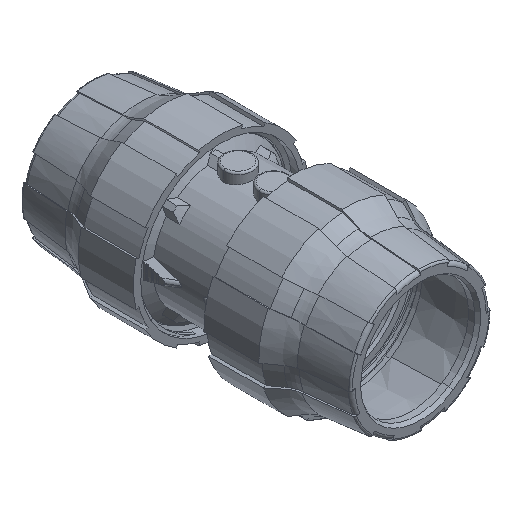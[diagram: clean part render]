
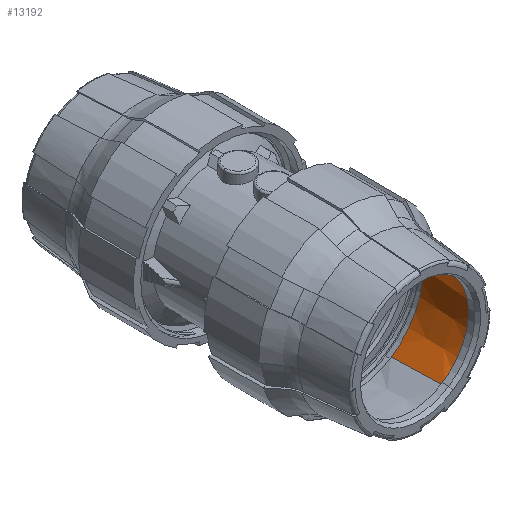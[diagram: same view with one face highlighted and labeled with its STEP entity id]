
A CAD part, isometric view. The second image highlights one B-rep face of the part: STEP entity #13192.
In plain terms, the highlighted conical face has half-angle 5.711 degrees and reference radius 35.457 mm.
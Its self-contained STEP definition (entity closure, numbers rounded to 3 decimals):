
#1772 = DIRECTION ( 'NONE',  ( 0., -1., 0. ) ) ;
#4125 = CARTESIAN_POINT ( 'NONE',  ( 0., -1.5, 38.602 ) ) ;
#4718 = AXIS2_PLACEMENT_3D ( 'NONE', #19025, #7998, #20873 ) ;
#5286 = VECTOR ( 'NONE', #22493, 1000. ) ;
#5398 = DIRECTION ( 'NONE',  ( 0., -1., 0. ) ) ;
#5467 = DIRECTION ( 'NONE',  ( 0., 0., -1. ) ) ;
#5844 = LINE ( 'NONE', #13364, #5286 ) ;
#6072 = CIRCLE ( 'NONE', #4718, 38.602 ) ;
#6181 = ORIENTED_EDGE ( 'NONE', *, *, #11480, .F. ) ;
#7423 = CARTESIAN_POINT ( 'NONE',  ( 0., 29.95, -35.457 ) ) ;
#7998 = DIRECTION ( 'NONE',  ( 0., -1., 0. ) ) ;
#8762 = ORIENTED_EDGE ( 'NONE', *, *, #22207, .T. ) ;
#10906 = VERTEX_POINT ( 'NONE', #18260 ) ;
#11480 = EDGE_CURVE ( 'NONE', #15521, #16288, #21147, .T. ) ;
#11580 = VERTEX_POINT ( 'NONE', #4125 ) ;
#11905 = CONICAL_SURFACE ( 'NONE', #17456, 35.457, 0.1 ) ;
#12498 = FACE_OUTER_BOUND ( 'NONE', #13677, .T. ) ;
#13082 = DIRECTION ( 'NONE',  ( 0., -0.995, -0.1 ) ) ;
#13119 = EDGE_CURVE ( 'NONE', #10906, #15521, #22812, .T. ) ;
#13192 = ADVANCED_FACE ( 'NONE', ( #12498 ), #11905, .F. ) ;
#13364 = CARTESIAN_POINT ( 'NONE',  ( 0., 29.95, 35.457 ) ) ;
#13677 = EDGE_LOOP ( 'NONE', ( #19352, #8762, #17155, #6181 ) ) ;
#14795 = CARTESIAN_POINT ( 'NONE',  ( 0., -1.5, -38.602 ) ) ;
#14985 = AXIS2_PLACEMENT_3D ( 'NONE', #16432, #5398, #18266 ) ;
#15521 = VERTEX_POINT ( 'NONE', #17299 ) ;
#15819 = EDGE_CURVE ( 'NONE', #11580, #16288, #6072, .T. ) ;
#16288 = VERTEX_POINT ( 'NONE', #14795 ) ;
#16432 = CARTESIAN_POINT ( 'NONE',  ( 0., 29.95, 0. ) ) ;
#16510 = CARTESIAN_POINT ( 'NONE',  ( 0., 29.95, 0. ) ) ;
#17155 = ORIENTED_EDGE ( 'NONE', *, *, #15819, .T. ) ;
#17299 = CARTESIAN_POINT ( 'NONE',  ( 0., 29.95, -35.457 ) ) ;
#17456 = AXIS2_PLACEMENT_3D ( 'NONE', #16510, #1772, #5467 ) ;
#18260 = CARTESIAN_POINT ( 'NONE',  ( 0., 29.95, 35.457 ) ) ;
#18266 = DIRECTION ( 'NONE',  ( 0., 0., -1. ) ) ;
#19025 = CARTESIAN_POINT ( 'NONE',  ( 0., -1.5, 0. ) ) ;
#19352 = ORIENTED_EDGE ( 'NONE', *, *, #13119, .F. ) ;
#20552 = VECTOR ( 'NONE', #13082, 1000. ) ;
#20873 = DIRECTION ( 'NONE',  ( 0., 0., -1. ) ) ;
#21147 = LINE ( 'NONE', #7423, #20552 ) ;
#22207 = EDGE_CURVE ( 'NONE', #10906, #11580, #5844, .T. ) ;
#22493 = DIRECTION ( 'NONE',  ( 0., -0.995, 0.1 ) ) ;
#22812 = CIRCLE ( 'NONE', #14985, 35.457 ) ;
